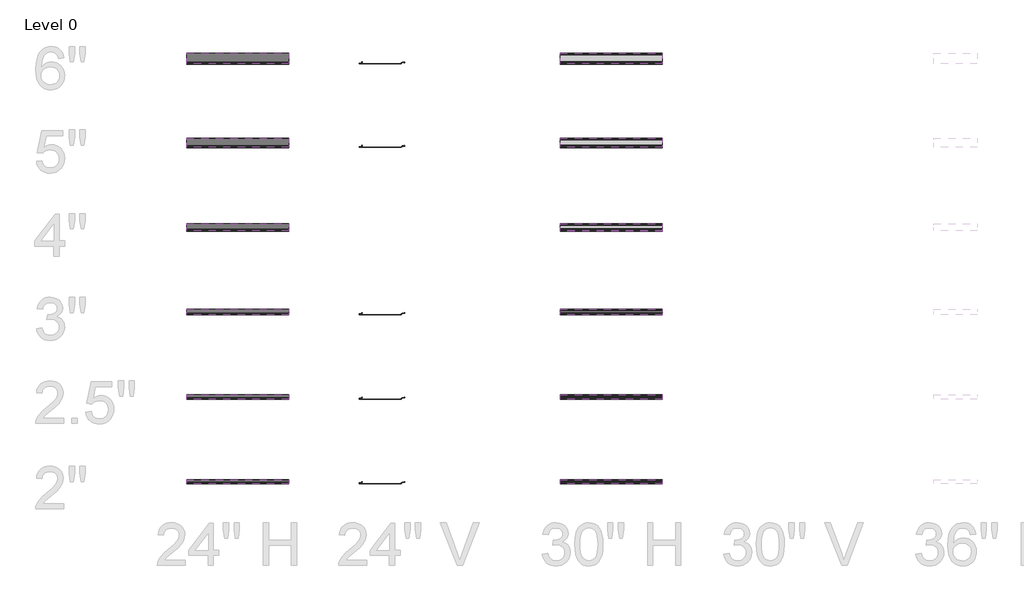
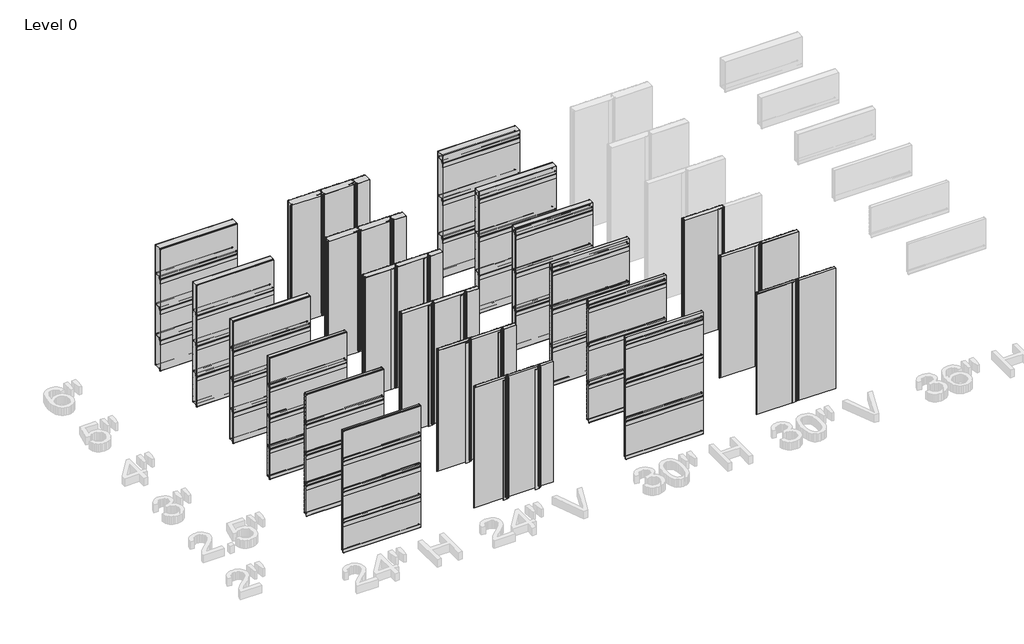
# One storey, part 1 of 5: 71 plates.
"""IFC4 building model written with IfcOpenShell, lengths in millimetres."""

from ifc_helpers import new_model, si_unit, origin, place, context, project, spatial, transform, mapped, element, save
from components import plate_93d587fa, plate_b0f2de99, plate_0513d823, plate_5e277305, plate_0195604f, plate_c88ea6cc, plate_7ebf2205, plate_2206daa0, plate_ab3201b3, plate_e248b932, plate_de5ff71d, plate_216ce73a, plate_c49b3873, plate_73322cd4, plate_418471fe, plate_d2e7867d, plate_895d6cfe, plate_a6e66233, plate_dfc03996, plate_81654451, plate_3cf2e204, plate_75d5e287, plate_fbe25f83, plate_8a0d36e0, plate_89cbda9c, plate_d76c51f2, plate_ca38e474, plate_94de314c, plate_083fe748, plate_6f7920e9, plate_0a305b09, plate_a877b8e1, plate_04382809, plate_4e9eae59, plate_5629053f, plate_448bf853, plate_fe53e348, plate_60676c1a, plate_a08392b7, plate_39003616, plate_c37062f1, plate_dd1b28fa, plate_e50692ed, plate_afb5f473, plate_10c0e79f, plate_7721d9ad, plate_0e43e67b, plate_09fe2767, plate_af5c8cf8, plate_a8da08d8, plate_294066a2, plate_90d14016, plate_d3c0d014, plate_4ac01d0b, plate_7b83431e, plate_1f315af2, plate_6518c5e3, plate_06cb28f5, plate_a019a109, plate_7c59897c, plate_722da754, plate_f468f77b, plate_640f0555, plate_125cbf9a, plate_2a5bf7fb, plate_c613c6d9, plate_bf2f585f, plate_0180bbca, plate_43e1ebec, plate_8d461976, plate_540b2b8f, plate_dca6bb5d

model = new_model("IFC4")

# Units and contexts
model_context = context("Model", 3, world=origin())
ifc_project = project(units=[si_unit("LENGTHUNIT", "METRE", prefix="MILLI")], contexts=[model_context])

# Site, building, storey
site = spatial("IfcSite", under=ifc_project)
building = spatial("IfcBuilding", under=site)
storey = spatial("IfcBuildingStorey", under=building, Name="Level 0", Elevation=0.0)

# Plates
placement = place(None, origin())
plate_shape = plate_93d587fa(model_context)
plate_2_shape = plate_b0f2de99(model_context)
plate_3_shape = plate_0513d823(model_context)
element("IfcPlate", 1, ObjectType="KIP-30-Karrier-KP-R19-CP-Hz-FL3-8in_SL : Hz 2\"", at=placement, inside=storey, context=model_context, shape_type="MappedRepresentation", body=[
    mapped(plate_shape, transform((-24450.7250935, 8444.8222907, 0.0), x_axis=(1.0, 0.0, 0.0), y_axis=(0.0, 1.0, 0.0), z_axis=(0.0, 0.0, 1.0))),
    mapped(plate_2_shape, transform((-24450.7250935, 8444.8222907, 0.0), x_axis=(1.0, 0.0, 0.0), y_axis=(0.0, 1.0, 0.0), z_axis=(0.0, 0.0, 1.0))),
    mapped(plate_3_shape, transform((-24450.7250935, 8444.8222907, 0.0), x_axis=(1.0, 0.0, 0.0), y_axis=(0.0, 1.0, 0.0), z_axis=(0.0, 0.0, 1.0))),
])
element("IfcPlate", 2, ObjectType="KIP-30-Karrier-KP-R19-CP-Hz-FL3-8in_SL : Hz 2\"", at=placement, inside=storey, context=model_context, shape_type="MappedRepresentation", body=[
    mapped(plate_shape, transform((-24450.7250935, 8444.8222907, 762.0), x_axis=(1.0, 0.0, 0.0), y_axis=(0.0, 1.0, 0.0), z_axis=(0.0, 0.0, 1.0))),
    mapped(plate_2_shape, transform((-24450.7250935, 8444.8222907, 762.0), x_axis=(1.0, 0.0, 0.0), y_axis=(0.0, 1.0, 0.0), z_axis=(0.0, 0.0, 1.0))),
    mapped(plate_3_shape, transform((-24450.7250935, 8444.8222907, 762.0), x_axis=(1.0, 0.0, 0.0), y_axis=(0.0, 1.0, 0.0), z_axis=(0.0, 0.0, 1.0))),
])
element("IfcPlate", 3, ObjectType="KIP-30-Karrier-KP-R19-CP-Hz-FL3-8in_SL : Hz 2\"", at=placement, inside=storey, context=model_context, shape_type="MappedRepresentation", body=[
    mapped(plate_shape, transform((-24450.7250935, 8444.8222907, 1524.0), x_axis=(1.0, 0.0, 0.0), y_axis=(0.0, 1.0, 0.0), z_axis=(0.0, 0.0, 1.0))),
    mapped(plate_2_shape, transform((-24450.7250935, 8444.8222907, 1524.0), x_axis=(1.0, 0.0, 0.0), y_axis=(0.0, 1.0, 0.0), z_axis=(0.0, 0.0, 1.0))),
    mapped(plate_3_shape, transform((-24450.7250935, 8444.8222907, 1524.0), x_axis=(1.0, 0.0, 0.0), y_axis=(0.0, 1.0, 0.0), z_axis=(0.0, 0.0, 1.0))),
])
plate_4_shape = plate_5e277305(model_context)
plate_5_shape = plate_0195604f(model_context)
element("IfcPlate", 4, ObjectType="KIP-24-Karrier-KP-R19-CP-Hz-FL3-8in_SL : Hz 2\"", at=placement, inside=storey, context=model_context, shape_type="MappedRepresentation", body=[
    mapped(plate_4_shape, transform((-29784.7250935, 8444.8222907, 0.0), x_axis=(1.0, 0.0, 0.0), y_axis=(0.0, 1.0, 0.0), z_axis=(0.0, 0.0, 1.0))),
    mapped(plate_5_shape, transform((-29784.7250935, 8444.8222907, 0.0), x_axis=(1.0, 0.0, 0.0), y_axis=(0.0, 1.0, 0.0), z_axis=(0.0, 0.0, 1.0))),
])
element("IfcPlate", 5, ObjectType="KIP-24-Karrier-KP-R19-CP-Hz-FL3-8in_SL : Hz 2\"", at=placement, inside=storey, context=model_context, shape_type="MappedRepresentation", body=[
    mapped(plate_4_shape, transform((-29784.7250935, 8444.8222907, 609.6), x_axis=(1.0, 0.0, 0.0), y_axis=(0.0, 1.0, 0.0), z_axis=(0.0, 0.0, 1.0))),
    mapped(plate_5_shape, transform((-29784.7250935, 8444.8222907, 609.6), x_axis=(1.0, 0.0, 0.0), y_axis=(0.0, 1.0, 0.0), z_axis=(0.0, 0.0, 1.0))),
])
element("IfcPlate", 6, ObjectType="KIP-24-Karrier-KP-R19-CP-Hz-FL3-8in_SL : Hz 2\"", at=placement, inside=storey, context=model_context, shape_type="MappedRepresentation", body=[
    mapped(plate_4_shape, transform((-29784.7250935, 8444.8222907, 1219.2), x_axis=(1.0, 0.0, 0.0), y_axis=(0.0, 1.0, 0.0), z_axis=(0.0, 0.0, 1.0))),
    mapped(plate_5_shape, transform((-29784.7250935, 8444.8222907, 1219.2), x_axis=(1.0, 0.0, 0.0), y_axis=(0.0, 1.0, 0.0), z_axis=(0.0, 0.0, 1.0))),
])
plate_6_shape = plate_c88ea6cc(model_context)
plate_7_shape = plate_7ebf2205(model_context)
element("IfcPlate", 7, ObjectType="KIP-24-Karrier-KP-R19-CP-Hz-FL3-8in_SL : Hz 2\"", at=placement, inside=storey, context=model_context, shape_type="MappedRepresentation", body=[
    mapped(plate_6_shape, transform((-29784.7250935, 8444.8222907, 1828.8), x_axis=(1.0, 0.0, 0.0), y_axis=(0.0, 1.0, 0.0), z_axis=(0.0, 0.0, 1.0))),
    mapped(plate_7_shape, transform((-29784.7250935, 8444.8222907, 1828.8), x_axis=(1.0, 0.0, 0.0), y_axis=(0.0, 1.0, 0.0), z_axis=(0.0, 0.0, 1.0))),
])
plate_8_shape = plate_2206daa0(model_context)
element("IfcPlate", 8, ObjectType="KIP-30-Karrier-KP-R19-CP-Hz-FL3-8in_SL : Hz 2\"", at=placement, inside=storey, context=model_context, shape_type="MappedRepresentation", body=[
    mapped(plate_8_shape, transform((-24450.7250935, 8444.8222907, 2286.0), x_axis=(1.0, 0.0, 0.0), y_axis=(0.0, 1.0, 0.0), z_axis=(0.0, 0.0, 1.0))),
])
plate_9_shape = plate_ab3201b3(model_context)
plate_10_shape = plate_e248b932(model_context)
element("IfcPlate", 9, ObjectType="KIP-30-Karrier-KP-R19-CP-Hz-FL3-8in_SL : Hz 2.5\"", at=placement, inside=storey, context=model_context, shape_type="MappedRepresentation", body=[
    mapped(plate_9_shape, transform((-24450.7250935, 9664.0222907, 0.0), x_axis=(1.0, 0.0, 0.0), y_axis=(0.0, 1.0, 0.0), z_axis=(0.0, 0.0, 1.0))),
    mapped(plate_2_shape, transform((-24450.7250935, 9664.0222907, 0.0), x_axis=(1.0, 0.0, 0.0), y_axis=(0.0, 1.0, 0.0), z_axis=(0.0, 0.0, 1.0))),
    mapped(plate_10_shape, transform((-24450.7250935, 9664.0222907, 0.0), x_axis=(1.0, 0.0, 0.0), y_axis=(0.0, 1.0, 0.0), z_axis=(0.0, 0.0, 1.0))),
])
element("IfcPlate", 10, ObjectType="KIP-30-Karrier-KP-R19-CP-Hz-FL3-8in_SL : Hz 2.5\"", at=placement, inside=storey, context=model_context, shape_type="MappedRepresentation", body=[
    mapped(plate_9_shape, transform((-24450.7250935, 9664.0222907, 762.0), x_axis=(1.0, 0.0, 0.0), y_axis=(0.0, 1.0, 0.0), z_axis=(0.0, 0.0, 1.0))),
    mapped(plate_2_shape, transform((-24450.7250935, 9664.0222907, 762.0), x_axis=(1.0, 0.0, 0.0), y_axis=(0.0, 1.0, 0.0), z_axis=(0.0, 0.0, 1.0))),
    mapped(plate_10_shape, transform((-24450.7250935, 9664.0222907, 762.0), x_axis=(1.0, 0.0, 0.0), y_axis=(0.0, 1.0, 0.0), z_axis=(0.0, 0.0, 1.0))),
])
element("IfcPlate", 11, ObjectType="KIP-30-Karrier-KP-R19-CP-Hz-FL3-8in_SL : Hz 2.5\"", at=placement, inside=storey, context=model_context, shape_type="MappedRepresentation", body=[
    mapped(plate_9_shape, transform((-24450.7250935, 9664.0222907, 1524.0), x_axis=(1.0, 0.0, 0.0), y_axis=(0.0, 1.0, 0.0), z_axis=(0.0, 0.0, 1.0))),
    mapped(plate_2_shape, transform((-24450.7250935, 9664.0222907, 1524.0), x_axis=(1.0, 0.0, 0.0), y_axis=(0.0, 1.0, 0.0), z_axis=(0.0, 0.0, 1.0))),
    mapped(plate_10_shape, transform((-24450.7250935, 9664.0222907, 1524.0), x_axis=(1.0, 0.0, 0.0), y_axis=(0.0, 1.0, 0.0), z_axis=(0.0, 0.0, 1.0))),
])
plate_11_shape = plate_de5ff71d(model_context)
plate_12_shape = plate_216ce73a(model_context)
element("IfcPlate", 12, ObjectType="KIP-24-Karrier-KP-R19-CP-Hz-FL3-8in_SL : Hz 2.5\"", at=placement, inside=storey, context=model_context, shape_type="MappedRepresentation", body=[
    mapped(plate_11_shape, transform((-29784.7250935, 9664.0222907, 0.0), x_axis=(1.0, 0.0, 0.0), y_axis=(0.0, 1.0, 0.0), z_axis=(0.0, 0.0, 1.0))),
    mapped(plate_12_shape, transform((-29784.7250935, 9664.0222907, 0.0), x_axis=(1.0, 0.0, 0.0), y_axis=(0.0, 1.0, 0.0), z_axis=(0.0, 0.0, 1.0))),
])
element("IfcPlate", 13, ObjectType="KIP-24-Karrier-KP-R19-CP-Hz-FL3-8in_SL : Hz 2.5\"", at=placement, inside=storey, context=model_context, shape_type="MappedRepresentation", body=[
    mapped(plate_11_shape, transform((-29784.7250935, 9664.0222907, 609.6), x_axis=(1.0, 0.0, 0.0), y_axis=(0.0, 1.0, 0.0), z_axis=(0.0, 0.0, 1.0))),
    mapped(plate_12_shape, transform((-29784.7250935, 9664.0222907, 609.6), x_axis=(1.0, 0.0, 0.0), y_axis=(0.0, 1.0, 0.0), z_axis=(0.0, 0.0, 1.0))),
])
element("IfcPlate", 14, ObjectType="KIP-24-Karrier-KP-R19-CP-Hz-FL3-8in_SL : Hz 2.5\"", at=placement, inside=storey, context=model_context, shape_type="MappedRepresentation", body=[
    mapped(plate_11_shape, transform((-29784.7250935, 9664.0222907, 1219.2), x_axis=(1.0, 0.0, 0.0), y_axis=(0.0, 1.0, 0.0), z_axis=(0.0, 0.0, 1.0))),
    mapped(plate_12_shape, transform((-29784.7250935, 9664.0222907, 1219.2), x_axis=(1.0, 0.0, 0.0), y_axis=(0.0, 1.0, 0.0), z_axis=(0.0, 0.0, 1.0))),
])
plate_13_shape = plate_c49b3873(model_context)
plate_14_shape = plate_73322cd4(model_context)
element("IfcPlate", 15, ObjectType="KIP-24-Karrier-KP-R19-CP-Hz-FL3-8in_SL : Hz 2.5\"", at=placement, inside=storey, context=model_context, shape_type="MappedRepresentation", body=[
    mapped(plate_13_shape, transform((-29784.7250935, 9664.0222907, 1828.8), x_axis=(1.0, 0.0, 0.0), y_axis=(0.0, 1.0, 0.0), z_axis=(0.0, 0.0, 1.0))),
    mapped(plate_14_shape, transform((-29784.7250935, 9664.0222907, 1828.8), x_axis=(1.0, 0.0, 0.0), y_axis=(0.0, 1.0, 0.0), z_axis=(0.0, 0.0, 1.0))),
])
plate_15_shape = plate_418471fe(model_context)
element("IfcPlate", 16, ObjectType="KIP-30-Karrier-KP-R19-CP-Hz-FL3-8in_SL : Hz 2.5\"", at=placement, inside=storey, context=model_context, shape_type="MappedRepresentation", body=[
    mapped(plate_15_shape, transform((-24450.7250935, 9664.0222907, 2286.0), x_axis=(1.0, 0.0, 0.0), y_axis=(0.0, 1.0, 0.0), z_axis=(0.0, 0.0, 1.0))),
])
plate_16_shape = plate_d2e7867d(model_context)
plate_17_shape = plate_895d6cfe(model_context)
element("IfcPlate", 17, ObjectType="KIP-30-Karrier-KP-R19-CP-Hz-FL3-8in_SL : Hz 3\"", at=placement, inside=storey, context=model_context, shape_type="MappedRepresentation", body=[
    mapped(plate_16_shape, transform((-24450.7250935, 10883.2222907, 0.0), x_axis=(1.0, 0.0, 0.0), y_axis=(0.0, 1.0, 0.0), z_axis=(0.0, 0.0, 1.0))),
    mapped(plate_2_shape, transform((-24450.7250935, 10883.2222907, 0.0), x_axis=(1.0, 0.0, 0.0), y_axis=(0.0, 1.0, 0.0), z_axis=(0.0, 0.0, 1.0))),
    mapped(plate_17_shape, transform((-24450.7250935, 10883.2222907, 0.0), x_axis=(1.0, 0.0, 0.0), y_axis=(0.0, 1.0, 0.0), z_axis=(0.0, 0.0, 1.0))),
])
element("IfcPlate", 18, ObjectType="KIP-30-Karrier-KP-R19-CP-Hz-FL3-8in_SL : Hz 3\"", at=placement, inside=storey, context=model_context, shape_type="MappedRepresentation", body=[
    mapped(plate_16_shape, transform((-24450.7250935, 10883.2222907, 762.0), x_axis=(1.0, 0.0, 0.0), y_axis=(0.0, 1.0, 0.0), z_axis=(0.0, 0.0, 1.0))),
    mapped(plate_2_shape, transform((-24450.7250935, 10883.2222907, 762.0), x_axis=(1.0, 0.0, 0.0), y_axis=(0.0, 1.0, 0.0), z_axis=(0.0, 0.0, 1.0))),
    mapped(plate_17_shape, transform((-24450.7250935, 10883.2222907, 762.0), x_axis=(1.0, 0.0, 0.0), y_axis=(0.0, 1.0, 0.0), z_axis=(0.0, 0.0, 1.0))),
])
element("IfcPlate", 19, ObjectType="KIP-30-Karrier-KP-R19-CP-Hz-FL3-8in_SL : Hz 3\"", at=placement, inside=storey, context=model_context, shape_type="MappedRepresentation", body=[
    mapped(plate_16_shape, transform((-24450.7250935, 10883.2222907, 1524.0), x_axis=(1.0, 0.0, 0.0), y_axis=(0.0, 1.0, 0.0), z_axis=(0.0, 0.0, 1.0))),
    mapped(plate_2_shape, transform((-24450.7250935, 10883.2222907, 1524.0), x_axis=(1.0, 0.0, 0.0), y_axis=(0.0, 1.0, 0.0), z_axis=(0.0, 0.0, 1.0))),
    mapped(plate_17_shape, transform((-24450.7250935, 10883.2222907, 1524.0), x_axis=(1.0, 0.0, 0.0), y_axis=(0.0, 1.0, 0.0), z_axis=(0.0, 0.0, 1.0))),
])
plate_18_shape = plate_a6e66233(model_context)
plate_19_shape = plate_dfc03996(model_context)
element("IfcPlate", 20, ObjectType="KIP-24-Karrier-KP-R19-CP-Hz-FL3-8in_SL : Hz 3\"", at=placement, inside=storey, context=model_context, shape_type="MappedRepresentation", body=[
    mapped(plate_18_shape, transform((-29784.7250935, 10883.2222907, 0.0), x_axis=(1.0, 0.0, 0.0), y_axis=(0.0, 1.0, 0.0), z_axis=(0.0, 0.0, 1.0))),
    mapped(plate_19_shape, transform((-29784.7250935, 10883.2222907, 0.0), x_axis=(1.0, 0.0, 0.0), y_axis=(0.0, 1.0, 0.0), z_axis=(0.0, 0.0, 1.0))),
])
element("IfcPlate", 21, ObjectType="KIP-24-Karrier-KP-R19-CP-Hz-FL3-8in_SL : Hz 3\"", at=placement, inside=storey, context=model_context, shape_type="MappedRepresentation", body=[
    mapped(plate_18_shape, transform((-29784.7250935, 10883.2222907, 609.6), x_axis=(1.0, 0.0, 0.0), y_axis=(0.0, 1.0, 0.0), z_axis=(0.0, 0.0, 1.0))),
    mapped(plate_19_shape, transform((-29784.7250935, 10883.2222907, 609.6), x_axis=(1.0, 0.0, 0.0), y_axis=(0.0, 1.0, 0.0), z_axis=(0.0, 0.0, 1.0))),
])
element("IfcPlate", 22, ObjectType="KIP-24-Karrier-KP-R19-CP-Hz-FL3-8in_SL : Hz 3\"", at=placement, inside=storey, context=model_context, shape_type="MappedRepresentation", body=[
    mapped(plate_18_shape, transform((-29784.7250935, 10883.2222907, 1219.2), x_axis=(1.0, 0.0, 0.0), y_axis=(0.0, 1.0, 0.0), z_axis=(0.0, 0.0, 1.0))),
    mapped(plate_19_shape, transform((-29784.7250935, 10883.2222907, 1219.2), x_axis=(1.0, 0.0, 0.0), y_axis=(0.0, 1.0, 0.0), z_axis=(0.0, 0.0, 1.0))),
])
plate_20_shape = plate_81654451(model_context)
plate_21_shape = plate_3cf2e204(model_context)
element("IfcPlate", 23, ObjectType="KIP-24-Karrier-KP-R19-CP-Hz-FL3-8in_SL : Hz 3\"", at=placement, inside=storey, context=model_context, shape_type="MappedRepresentation", body=[
    mapped(plate_20_shape, transform((-29784.7250935, 10883.2222907, 1828.8), x_axis=(1.0, 0.0, 0.0), y_axis=(0.0, 1.0, 0.0), z_axis=(0.0, 0.0, 1.0))),
    mapped(plate_21_shape, transform((-29784.7250935, 10883.2222907, 1828.8), x_axis=(1.0, 0.0, 0.0), y_axis=(0.0, 1.0, 0.0), z_axis=(0.0, 0.0, 1.0))),
])
plate_22_shape = plate_75d5e287(model_context)
element("IfcPlate", 24, ObjectType="KIP-30-Karrier-KP-R19-CP-Hz-FL3-8in_SL : Hz 3\"", at=placement, inside=storey, context=model_context, shape_type="MappedRepresentation", body=[
    mapped(plate_22_shape, transform((-24450.7250935, 10883.2222907, 2286.0), x_axis=(1.0, 0.0, 0.0), y_axis=(0.0, 1.0, 0.0), z_axis=(0.0, 0.0, 1.0))),
])
plate_23_shape = plate_fbe25f83(model_context)
plate_24_shape = plate_8a0d36e0(model_context)
element("IfcPlate", 25, ObjectType="KIP-30-Karrier-KP-R19-CP-Hz-FL3-8in_SL : Hz 4\"", at=placement, inside=storey, context=model_context, shape_type="MappedRepresentation", body=[
    mapped(plate_23_shape, transform((-24450.7250935, 12102.4222907, 0.0), x_axis=(1.0, 0.0, 0.0), y_axis=(0.0, 1.0, 0.0), z_axis=(0.0, 0.0, 1.0))),
    mapped(plate_2_shape, transform((-24450.7250935, 12102.4222907, 0.0), x_axis=(1.0, 0.0, 0.0), y_axis=(0.0, 1.0, 0.0), z_axis=(0.0, 0.0, 1.0))),
    mapped(plate_24_shape, transform((-24450.7250935, 12102.4222907, 0.0), x_axis=(1.0, 0.0, 0.0), y_axis=(0.0, 1.0, 0.0), z_axis=(0.0, 0.0, 1.0))),
])
element("IfcPlate", 26, ObjectType="KIP-30-Karrier-KP-R19-CP-Hz-FL3-8in_SL : Hz 4\"", at=placement, inside=storey, context=model_context, shape_type="MappedRepresentation", body=[
    mapped(plate_23_shape, transform((-24450.7250935, 12102.4222907, 762.0), x_axis=(1.0, 0.0, 0.0), y_axis=(0.0, 1.0, 0.0), z_axis=(0.0, 0.0, 1.0))),
    mapped(plate_2_shape, transform((-24450.7250935, 12102.4222907, 762.0), x_axis=(1.0, 0.0, 0.0), y_axis=(0.0, 1.0, 0.0), z_axis=(0.0, 0.0, 1.0))),
    mapped(plate_24_shape, transform((-24450.7250935, 12102.4222907, 762.0), x_axis=(1.0, 0.0, 0.0), y_axis=(0.0, 1.0, 0.0), z_axis=(0.0, 0.0, 1.0))),
])
element("IfcPlate", 27, ObjectType="KIP-30-Karrier-KP-R19-CP-Hz-FL3-8in_SL : Hz 4\"", at=placement, inside=storey, context=model_context, shape_type="MappedRepresentation", body=[
    mapped(plate_23_shape, transform((-24450.7250935, 12102.4222907, 1524.0), x_axis=(1.0, 0.0, 0.0), y_axis=(0.0, 1.0, 0.0), z_axis=(0.0, 0.0, 1.0))),
    mapped(plate_2_shape, transform((-24450.7250935, 12102.4222907, 1524.0), x_axis=(1.0, 0.0, 0.0), y_axis=(0.0, 1.0, 0.0), z_axis=(0.0, 0.0, 1.0))),
    mapped(plate_24_shape, transform((-24450.7250935, 12102.4222907, 1524.0), x_axis=(1.0, 0.0, 0.0), y_axis=(0.0, 1.0, 0.0), z_axis=(0.0, 0.0, 1.0))),
])
plate_25_shape = plate_89cbda9c(model_context)
plate_26_shape = plate_d76c51f2(model_context)
element("IfcPlate", 28, ObjectType="KIP-24-Karrier-KP-R19-CP-Hz-FL3-8in_SL : Hz 4\"", at=placement, inside=storey, context=model_context, shape_type="MappedRepresentation", body=[
    mapped(plate_25_shape, transform((-29784.7250935, 12102.4222907, 0.0), x_axis=(1.0, 0.0, 0.0), y_axis=(0.0, 1.0, 0.0), z_axis=(0.0, 0.0, 1.0))),
    mapped(plate_26_shape, transform((-29784.7250935, 12102.4222907, 0.0), x_axis=(1.0, 0.0, 0.0), y_axis=(0.0, 1.0, 0.0), z_axis=(0.0, 0.0, 1.0))),
])
element("IfcPlate", 29, ObjectType="KIP-24-Karrier-KP-R19-CP-Hz-FL3-8in_SL : Hz 4\"", at=placement, inside=storey, context=model_context, shape_type="MappedRepresentation", body=[
    mapped(plate_25_shape, transform((-29784.7250935, 12102.4222907, 609.6), x_axis=(1.0, 0.0, 0.0), y_axis=(0.0, 1.0, 0.0), z_axis=(0.0, 0.0, 1.0))),
    mapped(plate_26_shape, transform((-29784.7250935, 12102.4222907, 609.6), x_axis=(1.0, 0.0, 0.0), y_axis=(0.0, 1.0, 0.0), z_axis=(0.0, 0.0, 1.0))),
])
element("IfcPlate", 30, ObjectType="KIP-24-Karrier-KP-R19-CP-Hz-FL3-8in_SL : Hz 4\"", at=placement, inside=storey, context=model_context, shape_type="MappedRepresentation", body=[
    mapped(plate_25_shape, transform((-29784.7250935, 12102.4222907, 1219.2), x_axis=(1.0, 0.0, 0.0), y_axis=(0.0, 1.0, 0.0), z_axis=(0.0, 0.0, 1.0))),
    mapped(plate_26_shape, transform((-29784.7250935, 12102.4222907, 1219.2), x_axis=(1.0, 0.0, 0.0), y_axis=(0.0, 1.0, 0.0), z_axis=(0.0, 0.0, 1.0))),
])
plate_27_shape = plate_ca38e474(model_context)
plate_28_shape = plate_94de314c(model_context)
element("IfcPlate", 31, ObjectType="KIP-24-Karrier-KP-R19-CP-Hz-FL3-8in_SL : Hz 4\"", at=placement, inside=storey, context=model_context, shape_type="MappedRepresentation", body=[
    mapped(plate_27_shape, transform((-29784.7250935, 12102.4222907, 1828.8), x_axis=(1.0, 0.0, 0.0), y_axis=(0.0, 1.0, 0.0), z_axis=(0.0, 0.0, 1.0))),
    mapped(plate_28_shape, transform((-29784.7250935, 12102.4222907, 1828.8), x_axis=(1.0, 0.0, 0.0), y_axis=(0.0, 1.0, 0.0), z_axis=(0.0, 0.0, 1.0))),
])
plate_29_shape = plate_083fe748(model_context)
element("IfcPlate", 32, ObjectType="KIP-30-Karrier-KP-R19-CP-Hz-FL3-8in_SL : Hz 4\"", at=placement, inside=storey, context=model_context, shape_type="MappedRepresentation", body=[
    mapped(plate_29_shape, transform((-24450.7250935, 12102.4222907, 2286.0), x_axis=(1.0, 0.0, 0.0), y_axis=(0.0, 1.0, 0.0), z_axis=(0.0, 0.0, 1.0))),
])
plate_30_shape = plate_6f7920e9(model_context)
plate_31_shape = plate_0a305b09(model_context)
element("IfcPlate", 33, ObjectType="KIP-30-Karrier-KP-R19-CP-Hz-FL3-8in_SL : Hz 5\"", at=placement, inside=storey, context=model_context, shape_type="MappedRepresentation", body=[
    mapped(plate_30_shape, transform((-24450.7250935, 13321.6222907, 0.0), x_axis=(1.0, 0.0, 0.0), y_axis=(0.0, 1.0, 0.0), z_axis=(0.0, 0.0, 1.0))),
    mapped(plate_2_shape, transform((-24450.7250935, 13321.6222907, 0.0), x_axis=(1.0, 0.0, 0.0), y_axis=(0.0, 1.0, 0.0), z_axis=(0.0, 0.0, 1.0))),
    mapped(plate_31_shape, transform((-24450.7250935, 13321.6222907, 0.0), x_axis=(1.0, 0.0, 0.0), y_axis=(0.0, 1.0, 0.0), z_axis=(0.0, 0.0, 1.0))),
])
element("IfcPlate", 34, ObjectType="KIP-30-Karrier-KP-R19-CP-Hz-FL3-8in_SL : Hz 5\"", at=placement, inside=storey, context=model_context, shape_type="MappedRepresentation", body=[
    mapped(plate_30_shape, transform((-24450.7250935, 13321.6222907, 762.0), x_axis=(1.0, 0.0, 0.0), y_axis=(0.0, 1.0, 0.0), z_axis=(0.0, 0.0, 1.0))),
    mapped(plate_2_shape, transform((-24450.7250935, 13321.6222907, 762.0), x_axis=(1.0, 0.0, 0.0), y_axis=(0.0, 1.0, 0.0), z_axis=(0.0, 0.0, 1.0))),
    mapped(plate_31_shape, transform((-24450.7250935, 13321.6222907, 762.0), x_axis=(1.0, 0.0, 0.0), y_axis=(0.0, 1.0, 0.0), z_axis=(0.0, 0.0, 1.0))),
])
element("IfcPlate", 35, ObjectType="KIP-30-Karrier-KP-R19-CP-Hz-FL3-8in_SL : Hz 5\"", at=placement, inside=storey, context=model_context, shape_type="MappedRepresentation", body=[
    mapped(plate_30_shape, transform((-24450.7250935, 13321.6222907, 1524.0), x_axis=(1.0, 0.0, 0.0), y_axis=(0.0, 1.0, 0.0), z_axis=(0.0, 0.0, 1.0))),
    mapped(plate_2_shape, transform((-24450.7250935, 13321.6222907, 1524.0), x_axis=(1.0, 0.0, 0.0), y_axis=(0.0, 1.0, 0.0), z_axis=(0.0, 0.0, 1.0))),
    mapped(plate_31_shape, transform((-24450.7250935, 13321.6222907, 1524.0), x_axis=(1.0, 0.0, 0.0), y_axis=(0.0, 1.0, 0.0), z_axis=(0.0, 0.0, 1.0))),
])
plate_32_shape = plate_a877b8e1(model_context)
plate_33_shape = plate_04382809(model_context)
element("IfcPlate", 36, ObjectType="KIP-24-Karrier-KP-R19-CP-Hz-FL3-8in_SL : Hz 5\"", at=placement, inside=storey, context=model_context, shape_type="MappedRepresentation", body=[
    mapped(plate_32_shape, transform((-29784.7250935, 13321.6222907, 0.0), x_axis=(1.0, 0.0, 0.0), y_axis=(0.0, 1.0, 0.0), z_axis=(0.0, 0.0, 1.0))),
    mapped(plate_33_shape, transform((-29784.7250935, 13321.6222907, 0.0), x_axis=(1.0, 0.0, 0.0), y_axis=(0.0, 1.0, 0.0), z_axis=(0.0, 0.0, 1.0))),
])
element("IfcPlate", 37, ObjectType="KIP-24-Karrier-KP-R19-CP-Hz-FL3-8in_SL : Hz 5\"", at=placement, inside=storey, context=model_context, shape_type="MappedRepresentation", body=[
    mapped(plate_32_shape, transform((-29784.7250935, 13321.6222907, 609.6), x_axis=(1.0, 0.0, 0.0), y_axis=(0.0, 1.0, 0.0), z_axis=(0.0, 0.0, 1.0))),
    mapped(plate_33_shape, transform((-29784.7250935, 13321.6222907, 609.6), x_axis=(1.0, 0.0, 0.0), y_axis=(0.0, 1.0, 0.0), z_axis=(0.0, 0.0, 1.0))),
])
element("IfcPlate", 38, ObjectType="KIP-24-Karrier-KP-R19-CP-Hz-FL3-8in_SL : Hz 5\"", at=placement, inside=storey, context=model_context, shape_type="MappedRepresentation", body=[
    mapped(plate_32_shape, transform((-29784.7250935, 13321.6222907, 1219.2), x_axis=(1.0, 0.0, 0.0), y_axis=(0.0, 1.0, 0.0), z_axis=(0.0, 0.0, 1.0))),
    mapped(plate_33_shape, transform((-29784.7250935, 13321.6222907, 1219.2), x_axis=(1.0, 0.0, 0.0), y_axis=(0.0, 1.0, 0.0), z_axis=(0.0, 0.0, 1.0))),
])
plate_34_shape = plate_4e9eae59(model_context)
plate_35_shape = plate_5629053f(model_context)
element("IfcPlate", 39, ObjectType="KIP-24-Karrier-KP-R19-CP-Hz-FL3-8in_SL : Hz 5\"", at=placement, inside=storey, context=model_context, shape_type="MappedRepresentation", body=[
    mapped(plate_34_shape, transform((-29784.7250935, 13321.6222907, 1828.8), x_axis=(1.0, 0.0, 0.0), y_axis=(0.0, 1.0, 0.0), z_axis=(0.0, 0.0, 1.0))),
    mapped(plate_35_shape, transform((-29784.7250935, 13321.6222907, 1828.8), x_axis=(1.0, 0.0, 0.0), y_axis=(0.0, 1.0, 0.0), z_axis=(0.0, 0.0, 1.0))),
])
plate_36_shape = plate_448bf853(model_context)
element("IfcPlate", 40, ObjectType="KIP-30-Karrier-KP-R19-CP-Hz-FL3-8in_SL : Hz 5\"", at=placement, inside=storey, context=model_context, shape_type="MappedRepresentation", body=[
    mapped(plate_36_shape, transform((-24450.7250935, 13321.6222907, 2286.0), x_axis=(1.0, 0.0, 0.0), y_axis=(0.0, 1.0, 0.0), z_axis=(0.0, 0.0, 1.0))),
])
plate_37_shape = plate_fe53e348(model_context)
plate_38_shape = plate_60676c1a(model_context)
element("IfcPlate", 41, ObjectType="KIP-30-Karrier-KP-R19-CP-Hz-FL3-8in_SL : Hz 6\"", at=placement, inside=storey, context=model_context, shape_type="MappedRepresentation", body=[
    mapped(plate_37_shape, transform((-24450.7250935, 14539.4207172, 0.0), x_axis=(1.0, 0.0, 0.0), y_axis=(0.0, 1.0, 0.0), z_axis=(0.0, 0.0, 1.0))),
    mapped(plate_2_shape, transform((-24450.7250935, 14539.4207172, 0.0), x_axis=(1.0, 0.0, 0.0), y_axis=(0.0, 1.0, 0.0), z_axis=(0.0, 0.0, 1.0))),
    mapped(plate_38_shape, transform((-24450.7250935, 14539.4207172, 0.0), x_axis=(1.0, 0.0, 0.0), y_axis=(0.0, 1.0, 0.0), z_axis=(0.0, 0.0, 1.0))),
])
element("IfcPlate", 42, ObjectType="KIP-30-Karrier-KP-R19-CP-Hz-FL3-8in_SL : Hz 6\"", at=placement, inside=storey, context=model_context, shape_type="MappedRepresentation", body=[
    mapped(plate_37_shape, transform((-24450.7250935, 14539.4207172, 762.0), x_axis=(1.0, 0.0, 0.0), y_axis=(0.0, 1.0, 0.0), z_axis=(0.0, 0.0, 1.0))),
    mapped(plate_2_shape, transform((-24450.7250935, 14539.4207172, 762.0), x_axis=(1.0, 0.0, 0.0), y_axis=(0.0, 1.0, 0.0), z_axis=(0.0, 0.0, 1.0))),
    mapped(plate_38_shape, transform((-24450.7250935, 14539.4207172, 762.0), x_axis=(1.0, 0.0, 0.0), y_axis=(0.0, 1.0, 0.0), z_axis=(0.0, 0.0, 1.0))),
])
element("IfcPlate", 43, ObjectType="KIP-30-Karrier-KP-R19-CP-Hz-FL3-8in_SL : Hz 6\"", at=placement, inside=storey, context=model_context, shape_type="MappedRepresentation", body=[
    mapped(plate_37_shape, transform((-24450.7250935, 14539.4207172, 1524.0), x_axis=(1.0, 0.0, 0.0), y_axis=(0.0, 1.0, 0.0), z_axis=(0.0, 0.0, 1.0))),
    mapped(plate_2_shape, transform((-24450.7250935, 14539.4207172, 1524.0), x_axis=(1.0, 0.0, 0.0), y_axis=(0.0, 1.0, 0.0), z_axis=(0.0, 0.0, 1.0))),
    mapped(plate_38_shape, transform((-24450.7250935, 14539.4207172, 1524.0), x_axis=(1.0, 0.0, 0.0), y_axis=(0.0, 1.0, 0.0), z_axis=(0.0, 0.0, 1.0))),
])
plate_39_shape = plate_a08392b7(model_context)
plate_40_shape = plate_39003616(model_context)
element("IfcPlate", 44, ObjectType="KIP-24-Karrier-KP-R19-CP-Hz-FL3-8in_SL : Hz 6\"", at=placement, inside=storey, context=model_context, shape_type="MappedRepresentation", body=[
    mapped(plate_39_shape, transform((-29784.7250935, 14539.4207172, 0.0), x_axis=(1.0, 0.0, 0.0), y_axis=(0.0, 1.0, 0.0), z_axis=(0.0, 0.0, 1.0))),
    mapped(plate_40_shape, transform((-29784.7250935, 14539.4207172, 0.0), x_axis=(1.0, 0.0, 0.0), y_axis=(0.0, 1.0, 0.0), z_axis=(0.0, 0.0, 1.0))),
])
element("IfcPlate", 45, ObjectType="KIP-24-Karrier-KP-R19-CP-Hz-FL3-8in_SL : Hz 6\"", at=placement, inside=storey, context=model_context, shape_type="MappedRepresentation", body=[
    mapped(plate_39_shape, transform((-29784.7250935, 14539.4207172, 609.6), x_axis=(1.0, 0.0, 0.0), y_axis=(0.0, 1.0, 0.0), z_axis=(0.0, 0.0, 1.0))),
    mapped(plate_40_shape, transform((-29784.7250935, 14539.4207172, 609.6), x_axis=(1.0, 0.0, 0.0), y_axis=(0.0, 1.0, 0.0), z_axis=(0.0, 0.0, 1.0))),
])
element("IfcPlate", 46, ObjectType="KIP-24-Karrier-KP-R19-CP-Hz-FL3-8in_SL : Hz 6\"", at=placement, inside=storey, context=model_context, shape_type="MappedRepresentation", body=[
    mapped(plate_39_shape, transform((-29784.7250935, 14539.4207172, 1219.2), x_axis=(1.0, 0.0, 0.0), y_axis=(0.0, 1.0, 0.0), z_axis=(0.0, 0.0, 1.0))),
    mapped(plate_40_shape, transform((-29784.7250935, 14539.4207172, 1219.2), x_axis=(1.0, 0.0, 0.0), y_axis=(0.0, 1.0, 0.0), z_axis=(0.0, 0.0, 1.0))),
])
plate_41_shape = plate_c37062f1(model_context)
plate_42_shape = plate_dd1b28fa(model_context)
element("IfcPlate", 47, ObjectType="KIP-24-Karrier-KP-R19-CP-Hz-FL3-8in_SL : Hz 6\"", at=placement, inside=storey, context=model_context, shape_type="MappedRepresentation", body=[
    mapped(plate_41_shape, transform((-29784.7250935, 14539.4207172, 1828.8), x_axis=(1.0, 0.0, 0.0), y_axis=(0.0, 1.0, 0.0), z_axis=(0.0, 0.0, 1.0))),
    mapped(plate_42_shape, transform((-29784.7250935, 14539.4207172, 1828.8), x_axis=(1.0, 0.0, 0.0), y_axis=(0.0, 1.0, 0.0), z_axis=(0.0, 0.0, 1.0))),
])
plate_43_shape = plate_e50692ed(model_context)
element("IfcPlate", 48, ObjectType="KIP-30-Karrier-KP-R19-CP-Hz-FL3-8in_SL : Hz 6\"", at=placement, inside=storey, context=model_context, shape_type="MappedRepresentation", body=[
    mapped(plate_43_shape, transform((-24450.7250935, 14539.4207172, 2286.0), x_axis=(1.0, 0.0, 0.0), y_axis=(0.0, 1.0, 0.0), z_axis=(0.0, 0.0, 1.0))),
])
plate_44_shape = plate_afb5f473(model_context)
plate_45_shape = plate_10c0e79f(model_context)
plate_46_shape = plate_7721d9ad(model_context)
element("IfcPlate", 49, ObjectType="KIP-30-Karrier-KP-R19-CP-Vt-FL3-8_SL : Vt 2\"", at=placement, inside=storey, context=model_context, shape_type="MappedRepresentation", body=[
    mapped(plate_44_shape, transform((-22299.9413834, 8443.4207172, 0.0), x_axis=(1.0, 0.0, 0.0), y_axis=(0.0, 1.0, 0.0), z_axis=(0.0, 0.0, 1.0))),
    mapped(plate_45_shape, transform((-22299.9413834, 8443.4207172, 0.0), x_axis=(1.0, 0.0, 0.0), y_axis=(0.0, 1.0, 0.0), z_axis=(0.0, 0.0, 1.0))),
    mapped(plate_46_shape, transform((-22299.9413834, 8443.4207172, 0.0), x_axis=(1.0, 0.0, 0.0), y_axis=(0.0, 1.0, 0.0), z_axis=(0.0, 0.0, 1.0))),
])
plate_47_shape = plate_0e43e67b(model_context)
plate_48_shape = plate_09fe2767(model_context)
element("IfcPlate", 50, ObjectType="KIP-30-Karrier-KP-R19-CP-Vt-FL3-8_SL : Vt 2\"", at=placement, inside=storey, context=model_context, shape_type="MappedRepresentation", body=[
    mapped(plate_47_shape, transform((-21569.9413834, 8443.4207172, 0.0), x_axis=(1.0, 0.0, 0.0), y_axis=(0.0, 1.0, 0.0), z_axis=(0.0, 0.0, 1.0))),
    mapped(plate_48_shape, transform((-21569.9413834, 8443.4207172, 0.0), x_axis=(1.0, 0.0, 0.0), y_axis=(0.0, 1.0, 0.0), z_axis=(0.0, 0.0, 1.0))),
])
plate_49_shape = plate_af5c8cf8(model_context)
plate_50_shape = plate_a8da08d8(model_context)
element("IfcPlate", 51, ObjectType="KIP-24-Karrier-KP-R19-CP-Vt-FL3-8in_SL : Vt 2\"", at=placement, inside=storey, context=model_context, shape_type="MappedRepresentation", body=[
    mapped(plate_49_shape, transform((-27710.1413834, 8443.4207172, 0.0), x_axis=(1.0, 0.0, 0.0), y_axis=(0.0, 1.0, 0.0), z_axis=(0.0, 0.0, 1.0))),
    mapped(plate_50_shape, transform((-27710.1413834, 8443.4207172, 0.0), x_axis=(1.0, 0.0, 0.0), y_axis=(0.0, 1.0, 0.0), z_axis=(0.0, 0.0, 1.0))),
])
element("IfcPlate", 52, ObjectType="KIP-24-Karrier-KP-R19-CP-Vt-FL3-8in_SL : Vt 2\"", at=placement, inside=storey, context=model_context, shape_type="MappedRepresentation", body=[
    mapped(plate_49_shape, transform((-27100.5413833, 8443.4207172, 0.0), x_axis=(1.0, 0.0, 0.0), y_axis=(0.0, 1.0, 0.0), z_axis=(0.0, 0.0, 1.0))),
    mapped(plate_50_shape, transform((-27100.5413833, 8443.4207172, 0.0), x_axis=(1.0, 0.0, 0.0), y_axis=(0.0, 1.0, 0.0), z_axis=(0.0, 0.0, 1.0))),
])
plate_51_shape = plate_294066a2(model_context)
element("IfcPlate", 53, ObjectType="KIP-24-Karrier-KP-R19-CP-Vt-FL3-8in_SL : Vt 2\"", at=placement, inside=storey, context=model_context, shape_type="MappedRepresentation", body=[
    mapped(plate_51_shape, transform((-26675.3413834, 8443.4207172, 0.0), x_axis=(1.0, 0.0, 0.0), y_axis=(0.0, 1.0, 0.0), z_axis=(0.0, 0.0, 1.0))),
])
plate_52_shape = plate_90d14016(model_context)
plate_53_shape = plate_d3c0d014(model_context)
element("IfcPlate", 54, ObjectType="KIP-30-Karrier-KP-R19-CP-Vt-FL3-8_SL : Vt 2.5\"", at=placement, inside=storey, context=model_context, shape_type="MappedRepresentation", body=[
    mapped(plate_52_shape, transform((-22299.9413834, 9662.6207172, 0.0), x_axis=(1.0, 0.0, 0.0), y_axis=(0.0, 1.0, 0.0), z_axis=(0.0, 0.0, 1.0))),
    mapped(plate_45_shape, transform((-22299.9413834, 9662.6207172, 0.0), x_axis=(1.0, 0.0, 0.0), y_axis=(0.0, 1.0, 0.0), z_axis=(0.0, 0.0, 1.0))),
    mapped(plate_53_shape, transform((-22299.9413834, 9662.6207172, 0.0), x_axis=(1.0, 0.0, 0.0), y_axis=(0.0, 1.0, 0.0), z_axis=(0.0, 0.0, 1.0))),
])
plate_54_shape = plate_4ac01d0b(model_context)
plate_55_shape = plate_7b83431e(model_context)
element("IfcPlate", 55, ObjectType="KIP-30-Karrier-KP-R19-CP-Vt-FL3-8_SL : Vt 2.5\"", at=placement, inside=storey, context=model_context, shape_type="MappedRepresentation", body=[
    mapped(plate_54_shape, transform((-21569.9413834, 9662.6207172, 0.0), x_axis=(1.0, 0.0, 0.0), y_axis=(0.0, 1.0, 0.0), z_axis=(0.0, 0.0, 1.0))),
    mapped(plate_55_shape, transform((-21569.9413834, 9662.6207172, 0.0), x_axis=(1.0, 0.0, 0.0), y_axis=(0.0, 1.0, 0.0), z_axis=(0.0, 0.0, 1.0))),
])
plate_56_shape = plate_1f315af2(model_context)
plate_57_shape = plate_6518c5e3(model_context)
element("IfcPlate", 56, ObjectType="KIP-24-Karrier-KP-R19-CP-Vt-FL3-8in_SL : Vt 2.5\"", at=placement, inside=storey, context=model_context, shape_type="MappedRepresentation", body=[
    mapped(plate_56_shape, transform((-27710.1413834, 9662.6207172, 0.0), x_axis=(1.0, 0.0, 0.0), y_axis=(0.0, 1.0, 0.0), z_axis=(0.0, 0.0, 1.0))),
    mapped(plate_57_shape, transform((-27710.1413834, 9662.6207172, 0.0), x_axis=(1.0, 0.0, 0.0), y_axis=(0.0, 1.0, 0.0), z_axis=(0.0, 0.0, 1.0))),
])
element("IfcPlate", 57, ObjectType="KIP-24-Karrier-KP-R19-CP-Vt-FL3-8in_SL : Vt 2.5\"", at=placement, inside=storey, context=model_context, shape_type="MappedRepresentation", body=[
    mapped(plate_56_shape, transform((-27100.5413833, 9662.6207172, 0.0), x_axis=(1.0, 0.0, 0.0), y_axis=(0.0, 1.0, 0.0), z_axis=(0.0, 0.0, 1.0))),
    mapped(plate_57_shape, transform((-27100.5413833, 9662.6207172, 0.0), x_axis=(1.0, 0.0, 0.0), y_axis=(0.0, 1.0, 0.0), z_axis=(0.0, 0.0, 1.0))),
])
plate_58_shape = plate_06cb28f5(model_context)
element("IfcPlate", 58, ObjectType="KIP-24-Karrier-KP-R19-CP-Vt-FL3-8in_SL : Vt 2.5\"", at=placement, inside=storey, context=model_context, shape_type="MappedRepresentation", body=[
    mapped(plate_58_shape, transform((-26675.3413834, 9662.6207172, 0.0), x_axis=(1.0, 0.0, 0.0), y_axis=(0.0, 1.0, 0.0), z_axis=(0.0, 0.0, 1.0))),
])
plate_59_shape = plate_a019a109(model_context)
plate_60_shape = plate_7c59897c(model_context)
element("IfcPlate", 59, ObjectType="KIP-30-Karrier-KP-R19-CP-Vt-FL3-8_SL : Vt 3\"", at=placement, inside=storey, context=model_context, shape_type="MappedRepresentation", body=[
    mapped(plate_59_shape, transform((-22299.9413834, 10881.8207172, 0.0), x_axis=(1.0, 0.0, 0.0), y_axis=(0.0, 1.0, 0.0), z_axis=(0.0, 0.0, 1.0))),
    mapped(plate_45_shape, transform((-22299.9413834, 10881.8207172, 0.0), x_axis=(1.0, 0.0, 0.0), y_axis=(0.0, 1.0, 0.0), z_axis=(0.0, 0.0, 1.0))),
    mapped(plate_60_shape, transform((-22299.9413834, 10881.8207172, 0.0), x_axis=(1.0, 0.0, 0.0), y_axis=(0.0, 1.0, 0.0), z_axis=(0.0, 0.0, 1.0))),
])
plate_61_shape = plate_722da754(model_context)
plate_62_shape = plate_f468f77b(model_context)
element("IfcPlate", 60, ObjectType="KIP-24-Karrier-KP-R19-CP-Vt-FL3-8in_SL : Vt 3\"", at=placement, inside=storey, context=model_context, shape_type="MappedRepresentation", body=[
    mapped(plate_61_shape, transform((-27710.1413834, 10881.8207172, 0.0), x_axis=(1.0, 0.0, 0.0), y_axis=(0.0, 1.0, 0.0), z_axis=(0.0, 0.0, 1.0))),
    mapped(plate_62_shape, transform((-27710.1413834, 10881.8207172, 0.0), x_axis=(1.0, 0.0, 0.0), y_axis=(0.0, 1.0, 0.0), z_axis=(0.0, 0.0, 1.0))),
])
element("IfcPlate", 61, ObjectType="KIP-24-Karrier-KP-R19-CP-Vt-FL3-8in_SL : Vt 3\"", at=placement, inside=storey, context=model_context, shape_type="MappedRepresentation", body=[
    mapped(plate_61_shape, transform((-27100.5413833, 10881.8207172, 0.0), x_axis=(1.0, 0.0, 0.0), y_axis=(0.0, 1.0, 0.0), z_axis=(0.0, 0.0, 1.0))),
    mapped(plate_62_shape, transform((-27100.5413833, 10881.8207172, 0.0), x_axis=(1.0, 0.0, 0.0), y_axis=(0.0, 1.0, 0.0), z_axis=(0.0, 0.0, 1.0))),
])
plate_63_shape = plate_640f0555(model_context)
element("IfcPlate", 62, ObjectType="KIP-24-Karrier-KP-R19-CP-Vt-FL3-8in_SL : Vt 3\"", at=placement, inside=storey, context=model_context, shape_type="MappedRepresentation", body=[
    mapped(plate_63_shape, transform((-26675.3413834, 10881.8207172, 0.0), x_axis=(1.0, 0.0, 0.0), y_axis=(0.0, 1.0, 0.0), z_axis=(0.0, 0.0, 1.0))),
])
plate_64_shape = plate_125cbf9a(model_context)
plate_65_shape = plate_2a5bf7fb(model_context)
element("IfcPlate", 63, ObjectType="KIP-24-Karrier-KP-R19-CP-Vt-FL3-8in_SL : Vt 4\"", at=placement, inside=storey, context=model_context, shape_type="MappedRepresentation", body=[
    mapped(plate_64_shape, transform((-27710.1413834, 12101.0207172, 0.0), x_axis=(1.0, 0.0, 0.0), y_axis=(0.0, 1.0, 0.0), z_axis=(0.0, 0.0, 1.0))),
    mapped(plate_65_shape, transform((-27710.1413834, 12101.0207172, 0.0), x_axis=(1.0, 0.0, 0.0), y_axis=(0.0, 1.0, 0.0), z_axis=(0.0, 0.0, 1.0))),
])
element("IfcPlate", 64, ObjectType="KIP-24-Karrier-KP-R19-CP-Vt-FL3-8in_SL : Vt 4\"", at=placement, inside=storey, context=model_context, shape_type="MappedRepresentation", body=[
    mapped(plate_64_shape, transform((-27100.5413833, 12101.0207172, 0.0), x_axis=(1.0, 0.0, 0.0), y_axis=(0.0, 1.0, 0.0), z_axis=(0.0, 0.0, 1.0))),
    mapped(plate_65_shape, transform((-27100.5413833, 12101.0207172, 0.0), x_axis=(1.0, 0.0, 0.0), y_axis=(0.0, 1.0, 0.0), z_axis=(0.0, 0.0, 1.0))),
])
plate_66_shape = plate_c613c6d9(model_context)
element("IfcPlate", 65, ObjectType="KIP-24-Karrier-KP-R19-CP-Vt-FL3-8in_SL : Vt 4\"", at=placement, inside=storey, context=model_context, shape_type="MappedRepresentation", body=[
    mapped(plate_66_shape, transform((-26675.3413834, 12101.0207172, 0.0), x_axis=(1.0, 0.0, 0.0), y_axis=(0.0, 1.0, 0.0), z_axis=(0.0, 0.0, 1.0))),
])
plate_67_shape = plate_bf2f585f(model_context)
plate_68_shape = plate_0180bbca(model_context)
element("IfcPlate", 66, ObjectType="KIP-24-Karrier-KP-R19-CP-Vt-FL3-8in_SL : Vt 5\"", at=placement, inside=storey, context=model_context, shape_type="MappedRepresentation", body=[
    mapped(plate_67_shape, transform((-27710.1413834, 13320.2207172, 0.0), x_axis=(1.0, 0.0, 0.0), y_axis=(0.0, 1.0, 0.0), z_axis=(0.0, 0.0, 1.0))),
    mapped(plate_68_shape, transform((-27710.1413834, 13320.2207172, 0.0), x_axis=(1.0, 0.0, 0.0), y_axis=(0.0, 1.0, 0.0), z_axis=(0.0, 0.0, 1.0))),
])
element("IfcPlate", 67, ObjectType="KIP-24-Karrier-KP-R19-CP-Vt-FL3-8in_SL : Vt 5\"", at=placement, inside=storey, context=model_context, shape_type="MappedRepresentation", body=[
    mapped(plate_67_shape, transform((-27100.5413833, 13320.2207172, 0.0), x_axis=(1.0, 0.0, 0.0), y_axis=(0.0, 1.0, 0.0), z_axis=(0.0, 0.0, 1.0))),
    mapped(plate_68_shape, transform((-27100.5413833, 13320.2207172, 0.0), x_axis=(1.0, 0.0, 0.0), y_axis=(0.0, 1.0, 0.0), z_axis=(0.0, 0.0, 1.0))),
])
plate_69_shape = plate_43e1ebec(model_context)
element("IfcPlate", 68, ObjectType="KIP-24-Karrier-KP-R19-CP-Vt-FL3-8in_SL : Vt 5\"", at=placement, inside=storey, context=model_context, shape_type="MappedRepresentation", body=[
    mapped(plate_69_shape, transform((-26675.3413834, 13320.2207172, 0.0), x_axis=(1.0, 0.0, 0.0), y_axis=(0.0, 1.0, 0.0), z_axis=(0.0, 0.0, 1.0))),
])
plate_70_shape = plate_8d461976(model_context)
plate_71_shape = plate_540b2b8f(model_context)
element("IfcPlate", 69, ObjectType="KIP-24-Karrier-KP-R19-CP-Vt-FL3-8in_SL : Vt 6\"", at=placement, inside=storey, context=model_context, shape_type="MappedRepresentation", body=[
    mapped(plate_70_shape, transform((-27710.1413834, 14539.4207172, 0.0), x_axis=(1.0, 0.0, 0.0), y_axis=(0.0, 1.0, 0.0), z_axis=(0.0, 0.0, 1.0))),
    mapped(plate_71_shape, transform((-27710.1413834, 14539.4207172, 0.0), x_axis=(1.0, 0.0, 0.0), y_axis=(0.0, 1.0, 0.0), z_axis=(0.0, 0.0, 1.0))),
])
element("IfcPlate", 70, ObjectType="KIP-24-Karrier-KP-R19-CP-Vt-FL3-8in_SL : Vt 6\"", at=placement, inside=storey, context=model_context, shape_type="MappedRepresentation", body=[
    mapped(plate_70_shape, transform((-27100.5413833, 14539.4207172, 0.0), x_axis=(1.0, 0.0, 0.0), y_axis=(0.0, 1.0, 0.0), z_axis=(0.0, 0.0, 1.0))),
    mapped(plate_71_shape, transform((-27100.5413833, 14539.4207172, 0.0), x_axis=(1.0, 0.0, 0.0), y_axis=(0.0, 1.0, 0.0), z_axis=(0.0, 0.0, 1.0))),
])
plate_72_shape = plate_dca6bb5d(model_context)
element("IfcPlate", 71, ObjectType="KIP-24-Karrier-KP-R19-CP-Vt-FL3-8in_SL : Vt 6\"", at=placement, inside=storey, context=model_context, shape_type="MappedRepresentation", body=[
    mapped(plate_72_shape, transform((-26675.3413834, 14539.4207172, 0.0), x_axis=(1.0, 0.0, 0.0), y_axis=(0.0, 1.0, 0.0), z_axis=(0.0, 0.0, 1.0))),
])

save(model, "model.ifc")
